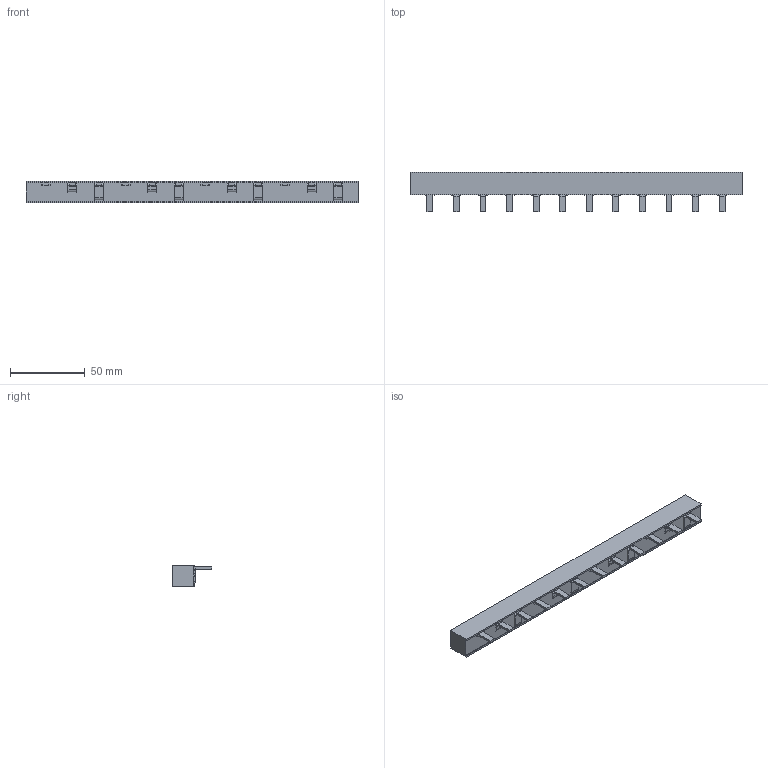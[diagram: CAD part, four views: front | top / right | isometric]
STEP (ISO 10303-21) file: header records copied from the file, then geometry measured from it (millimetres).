
FILE_DESCRIPTION (( 'STEP AP203' ), '1' );
FILE_NAME ('BR3-4.STEP', '2019-05-07T11:26:57', ( 'Usuário do Windows' ), ( 'WEG Equipamentos Elétricos' ), 'SwSTEP 2.0', 'SolidWorks 2018', '' );
FILE_SCHEMA (( 'CONFIG_CONTROL_DESIGN' ));
Length unit declared in the file: millimetre
Products named in the file (2): BR3-4
Bounding box: 222.4 x 26.5 x 14.5 mm (x, y, z)
Volume: 49135.7 mm3; surface area: 18898 mm2
Topology: 4 solids, 4 shells, 276 faces, 676 edges, 408 vertices
Faces by surface type: plane 220, cylinder 56
Entity records: 8069 total; most frequent: DIRECTION 1376, CARTESIAN_POINT 1362, ORIENTED_EDGE 1352, EDGE_CURVE 676, LINE 532, VECTOR 532, AXIS2_PLACEMENT_3D 422, VERTEX_POINT 408
